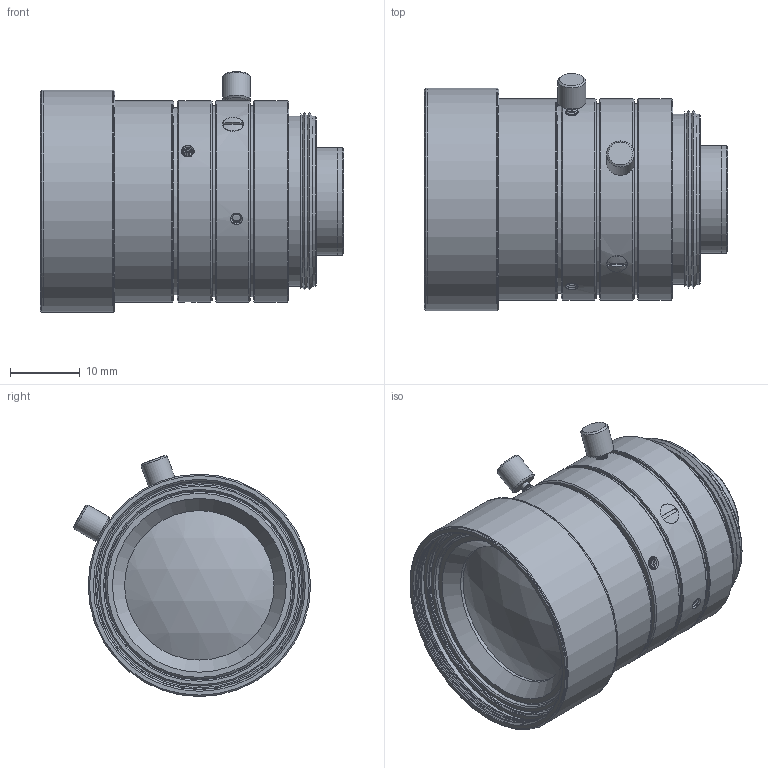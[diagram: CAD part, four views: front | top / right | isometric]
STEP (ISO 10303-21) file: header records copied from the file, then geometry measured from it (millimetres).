
FILE_DESCRIPTION(/* description */ ('Unknown'),/* implementation_level */ '2;1');
FILE_NAME(/* name */ 'M0828-MPW3',/* time_stamp */ '2021-03-20T01:02:06+09:00',/* author */ ('Unknown'),/* organization */ ('Unknown'),/* preprocessor_version */ 'ST-DEVELOPER v16.7',/* originating_system */ 'DEX',/* authorisation */ $);
FILE_SCHEMA (('AUTOMOTIVE_DESIGN {1 0 10303 214 3 1 1}'));
Length unit declared in the file: millimetre
Products named in the file (3): M0828-MPW3 Infinity; M0828-MPW3 Infinity_0; M0828-MPW3 Mechanical Limit_0
Assembly tree (2 placements, depth 2):
  M0828-MPW3 Infinity
    M0828-MPW3 Infinity_0
    M0828-MPW3 Mechanical Limit_0
Bounding box: 43.6 x 34.11 x 34.69 mm (x, y, z)
Volume: 27913.3 mm3; surface area: 46562.6 mm2
Topology: 42 solids, 42 shells, 1128 faces, 2246 edges, 1310 vertices
Faces by surface type: cone 710, plane 228, cylinder 178, sphere 12
Full cylindrical faces by diameter (mm): 1 x2, 1.3 x4, 1.5 x8, 2 x10, 3 x4, 4 x4, 10 x2, 11 x4, 12 x2, 13 x4, 14.5 x4, 15 x2, 15.5 x2, 17 x2, 19 x4, 19.1 x2, 19.25 x2, 19.5 x4, 20.5 x2, 21 x4, 21.5 x4, 21.8 x4, 22.5 x10, 23 x2, 23.5 x2, 23.7 x2, 24 x12, 24.5 x4, 25 x2, 26 x2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
Entity records: 25605 total; most frequent: CARTESIAN_POINT 4813, DIRECTION 4594, ORIENTED_EDGE 2904, AXIS2_PLACEMENT_3D 2223, EDGE_LOOP 2086, FACE_BOUND 2086, EDGE_CURVE 1452, VERTEX_POINT 1282
